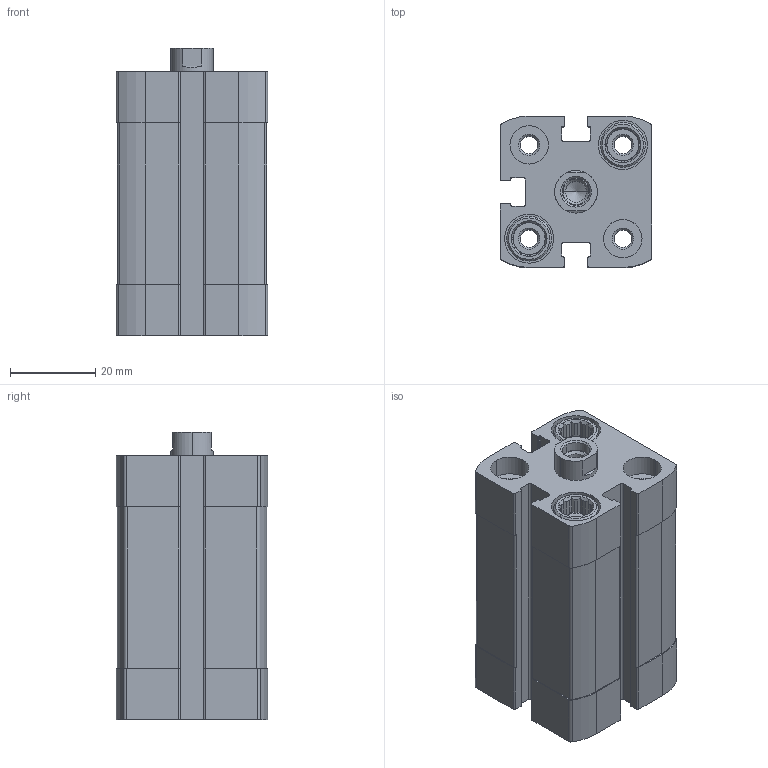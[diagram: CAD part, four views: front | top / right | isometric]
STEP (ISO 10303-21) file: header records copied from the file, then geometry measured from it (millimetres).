
FILE_DESCRIPTION (( 'STEP AP203' ), '1' );
FILE_NAME ('CCN20-25F.STEP', '2017-04-06T12:20:08', ( '' ), ( '' ), 'SwSTEP 2.0', 'SolidWorks 2016', '' );
FILE_SCHEMA (( 'CONFIG_CONTROL_DESIGN' ));
Length unit declared in the file: millimetre
Products named in the file (3): CCN-25---(Z); CCN-25_(KS); CCN20-25F
Assembly tree (2 placements, depth 2):
  CCN20-25F
    CCN-25---(Z)
    CCN-25_(KS)
Bounding box: 35.5 x 35.5 x 67.5 mm (x, y, z)
Volume: 56829.3 mm3; surface area: 24932 mm2
Topology: 2 solids, 2 shells, 407 faces, 1088 edges, 715 vertices
Faces by surface type: plane 231, cylinder 134, cone 42
Entity records: 13201 total; most frequent: CARTESIAN_POINT 2507, DIRECTION 2232, ORIENTED_EDGE 2172, EDGE_CURVE 1086, AXIS2_PLACEMENT_3D 832, VERTEX_POINT 715, LINE 568, VECTOR 568
